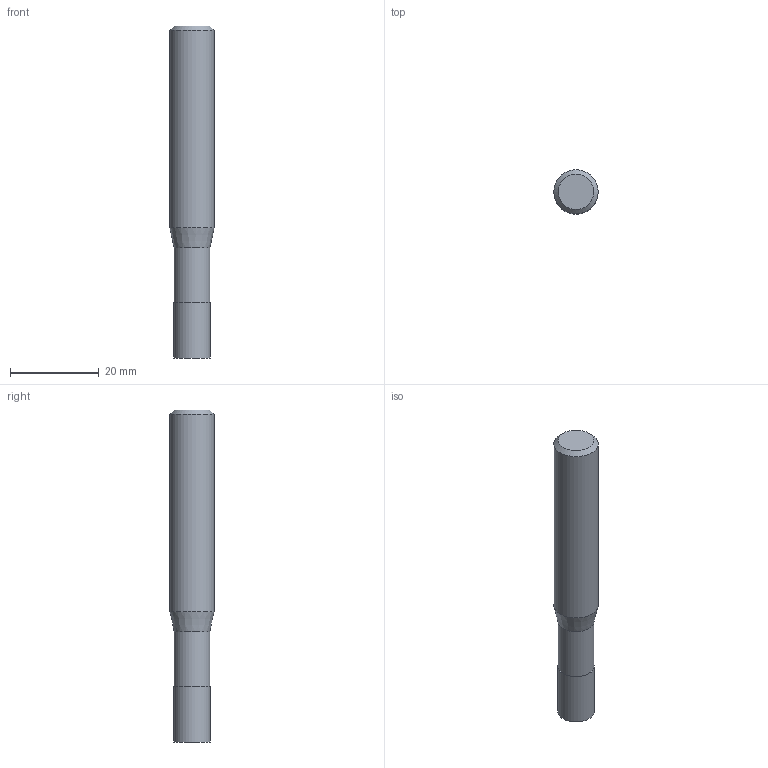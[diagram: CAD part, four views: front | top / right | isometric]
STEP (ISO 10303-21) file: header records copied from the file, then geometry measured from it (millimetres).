
FILE_DESCRIPTION((''),'2;1');
FILE_NAME('C:\Users\nsx150\AppData\Local\Temp\Mastercam 2021\EUJSUNXURU\TEMP.step','2021-04-22T10:29:29',(''),(''),'STEP Write','Mastercam 2021 ... CNC Software, Inc.','');
FILE_SCHEMA(('AUTOMOTIVE_DESIGN'));
Length unit declared in the file: millimetre
Products named in the file (1): None
Bounding box: 10 x 10 x 75 mm (x, y, z)
Volume: 5173 mm3; surface area: 2423.5 mm2
Topology: 2 solids, 2 shells, 9 faces, 12 edges, 7 vertices
Faces by surface type: plane 4, cylinder 3, cone 2
Full cylindrical faces by diameter (mm): 8.1 x1, 8.3 x1, 10 x1
Entity records: 211 total; most frequent: DIRECTION 36, CARTESIAN_POINT 25, AXIS2_PLACEMENT_3D 18, ORIENTED_EDGE 14, EDGE_LOOP 14, STYLED_ITEM 12, ADVANCED_FACE 9, FACE_BOUND 8
